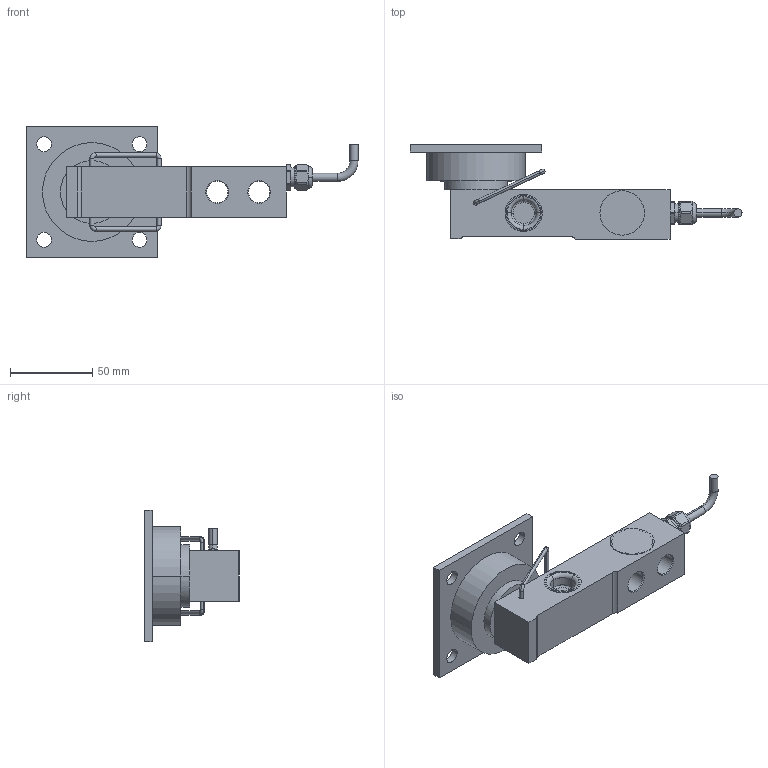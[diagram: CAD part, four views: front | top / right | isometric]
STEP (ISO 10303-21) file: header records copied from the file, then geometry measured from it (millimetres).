
FILE_DESCRIPTION((''),'2;1');
FILE_NAME('72208670-0745A-110KG-_SW0001','2014-07-30T',('wang-379'),(''),'PRO/ENGINEER BY PARAMETRIC TECHNOLOGY CORPORATION, 2013320','PRO/ENGINEER BY PARAMETRIC TECHNOLOGY CORPORATION, 2013320','');
FILE_SCHEMA(('CONFIG_CONTROL_DESIGN'));
Length unit declared in the file: millimetre
Products named in the file (1): 72208670-0745A-110KG-_SW0001
Bounding box: 201.72 x 57.48 x 80 mm (x, y, z)
Volume: 176681.8 mm3; surface area: 50404.9 mm2
Topology: 4 solids, 5 shells, 263 faces, 702 edges, 461 vertices
Faces by surface type: cylinder 97, plane 79, torus 44, cone 41, sphere 2
Entity records: 8920 total; most frequent: CARTESIAN_POINT 2007, DIRECTION 1573, ORIENTED_EDGE 1400, EDGE_CURVE 700, AXIS2_PLACEMENT_3D 668, VERTEX_POINT 461, CIRCLE 405, EDGE_LOOP 297
